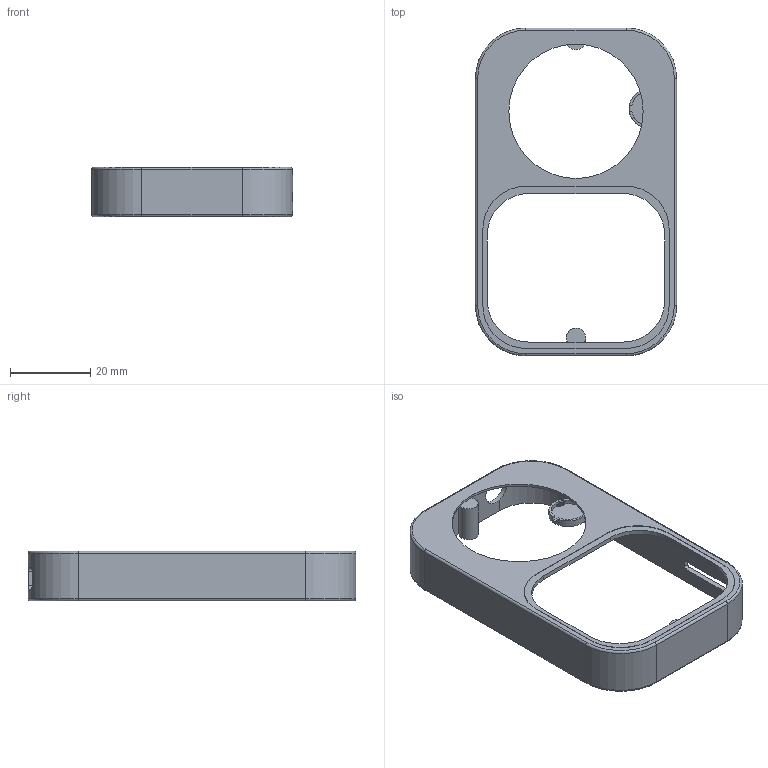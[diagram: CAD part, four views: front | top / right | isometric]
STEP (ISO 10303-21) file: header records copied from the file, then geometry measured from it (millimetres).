
FILE_DESCRIPTION(('FreeCAD Model'),'2;1');
FILE_NAME('Open CASCADE Shape Model','2026-09-22T11:13:15',('FreeCAD'),( 'FreeCAD'),'Open CASCADE STEP processor 7.8','FreeCAD','Unknown');
FILE_SCHEMA(('AUTOMOTIVE_DESIGN { 1 0 10303 214 1 1 1 1 }'));
Length unit declared in the file: millimetre
Products named in the file (1): Open CASCADE STEP translator 7.8 1
Bounding box: 50 x 81.5 x 12.3 mm (x, y, z)
Volume: 5117.1 mm3; surface area: 9246.9 mm2
Topology: 1 solids, 1 shells, 112 faces, 299 edges, 196 vertices
Faces by surface type: plane 54, cylinder 50, torus 8
Full cylindrical faces by diameter (mm): 1.3 x6, 4 x4, 4.8 x1, 7.2 x1, 9.6 x1, 33.4 x1, 35 x1
Entity records: 3694 total; most frequent: CARTESIAN_POINT 765, DIRECTION 638, ORIENTED_EDGE 598, EDGE_CURVE 299, AXIS2_PLACEMENT_3D 239, VERTEX_POINT 196, LINE 160, VECTOR 160
